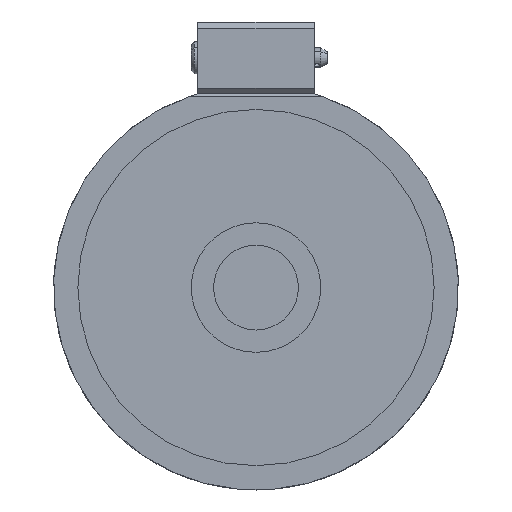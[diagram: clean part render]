
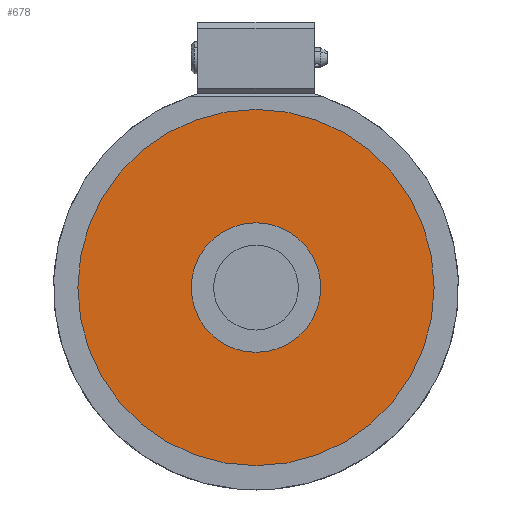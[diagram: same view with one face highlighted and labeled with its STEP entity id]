
A CAD part, left-side view. The second image highlights one B-rep face of the part: STEP entity #678.
In plain terms, the highlighted planar face has unit normal (-1, 0, 0).
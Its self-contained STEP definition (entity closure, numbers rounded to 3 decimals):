
#6 = FACE_OUTER_BOUND ( 'NONE', #1420, .T. ) ;
#64 = CARTESIAN_POINT ( 'NONE',  ( 34.165, 85.327, 109.394 ) ) ;
#103 = CIRCLE ( 'NONE', #2605, 55. ) ;
#109 = DIRECTION ( 'NONE',  ( 0., 0., -1. ) ) ;
#122 = AXIS2_PLACEMENT_3D ( 'NONE', #64, #1644, #1622 ) ;
#128 = DIRECTION ( 'NONE',  ( -1., 0., 0. ) ) ;
#432 = EDGE_CURVE ( 'NONE', #446, #1402, #1429, .T. ) ;
#446 = VERTEX_POINT ( 'NONE', #2672 ) ;
#497 = DIRECTION ( 'NONE',  ( 0., 1., 0. ) ) ;
#678 = ADVANCED_FACE ( 'NONE', ( #1824, #6 ), #2339, .F. ) ;
#1020 = AXIS2_PLACEMENT_3D ( 'NONE', #1404, #2442, #109 ) ;
#1155 = ORIENTED_EDGE ( 'NONE', *, *, #432, .T. ) ;
#1222 = DIRECTION ( 'NONE',  ( 1., 0., 0. ) ) ;
#1322 = CARTESIAN_POINT ( 'NONE',  ( 34.165, 102.327, 109.394 ) ) ;
#1358 = CIRCLE ( 'NONE', #1020, 13.95 ) ;
#1402 = VERTEX_POINT ( 'NONE', #2994 ) ;
#1404 = CARTESIAN_POINT ( 'NONE',  ( 34.165, 85.327, 109.394 ) ) ;
#1420 = EDGE_LOOP ( 'NONE', ( #1155, #2406 ) ) ;
#1429 = CIRCLE ( 'NONE', #122, 55. ) ;
#1541 = CARTESIAN_POINT ( 'NONE',  ( 34.165, 85.327, 109.394 ) ) ;
#1622 = DIRECTION ( 'NONE',  ( 0., 0., 1. ) ) ;
#1644 = DIRECTION ( 'NONE',  ( -1., 0., 0. ) ) ;
#1779 = EDGE_LOOP ( 'NONE', ( #2559, #2458 ) ) ;
#1781 = VERTEX_POINT ( 'NONE', #2885 ) ;
#1824 = FACE_BOUND ( 'NONE', #1779, .T. ) ;
#2098 = EDGE_CURVE ( 'NONE', #1402, #446, #103, .T. ) ;
#2155 = CARTESIAN_POINT ( 'NONE',  ( 34.165, 85.327, 109.394 ) ) ;
#2270 = EDGE_CURVE ( 'NONE', #1781, #2525, #3039, .T. ) ;
#2339 = PLANE ( 'NONE',  #2675 ) ;
#2406 = ORIENTED_EDGE ( 'NONE', *, *, #2098, .T. ) ;
#2432 = CARTESIAN_POINT ( 'NONE',  ( 34.165, 71.377, 109.394 ) ) ;
#2442 = DIRECTION ( 'NONE',  ( 1., 0., 0. ) ) ;
#2458 = ORIENTED_EDGE ( 'NONE', *, *, #2270, .T. ) ;
#2525 = VERTEX_POINT ( 'NONE', #2432 ) ;
#2559 = ORIENTED_EDGE ( 'NONE', *, *, #2754, .T. ) ;
#2605 = AXIS2_PLACEMENT_3D ( 'NONE', #2155, #128, #3263 ) ;
#2618 = DIRECTION ( 'NONE',  ( 1., 0., 0. ) ) ;
#2672 = CARTESIAN_POINT ( 'NONE',  ( 34.165, 30.327, 109.394 ) ) ;
#2675 = AXIS2_PLACEMENT_3D ( 'NONE', #1322, #2618, #497 ) ;
#2754 = EDGE_CURVE ( 'NONE', #2525, #1781, #1358, .T. ) ;
#2885 = CARTESIAN_POINT ( 'NONE',  ( 34.165, 99.277, 109.394 ) ) ;
#2994 = CARTESIAN_POINT ( 'NONE',  ( 34.165, 140.327, 109.394 ) ) ;
#3039 = CIRCLE ( 'NONE', #3271, 13.95 ) ;
#3263 = DIRECTION ( 'NONE',  ( 0., 0., 1. ) ) ;
#3271 = AXIS2_PLACEMENT_3D ( 'NONE', #1541, #1222, #3338 ) ;
#3338 = DIRECTION ( 'NONE',  ( 0., 0., -1. ) ) ;
